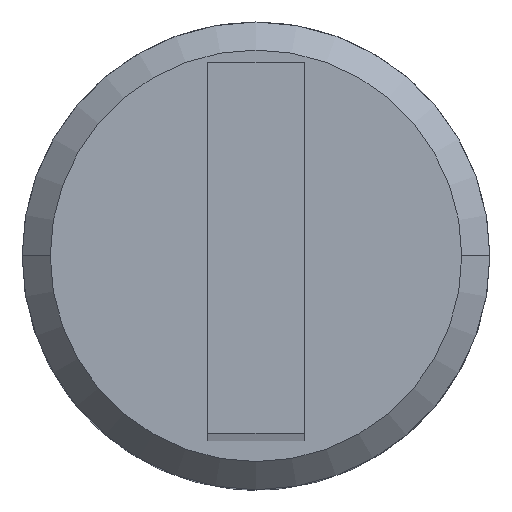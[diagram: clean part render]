
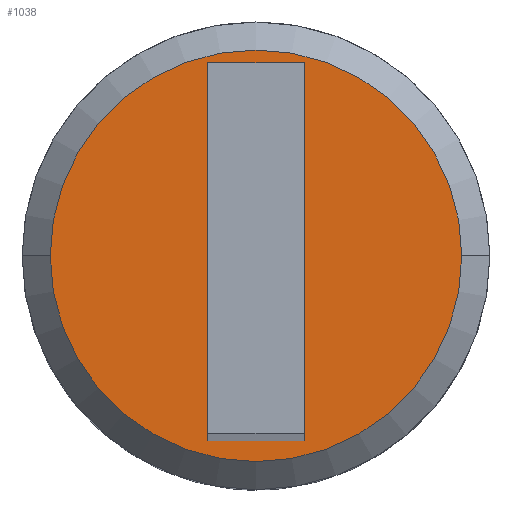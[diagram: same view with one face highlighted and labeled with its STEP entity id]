
A CAD part, top view. The second image highlights one B-rep face of the part: STEP entity #1038.
In plain terms, the highlighted planar face has unit normal (0, 0, 1).
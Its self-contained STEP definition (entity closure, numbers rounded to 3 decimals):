
#8 = AXIS2_PLACEMENT_3D ( 'NONE', #1001, #998, #993 ) ;
#255 = EDGE_LOOP ( 'NONE', ( #359, #360 ) ) ;
#359 = ORIENTED_EDGE ( 'NONE', *, *, #1193, .T. ) ;
#360 = ORIENTED_EDGE ( 'NONE', *, *, #1260, .T. ) ;
#543 = AXIS2_PLACEMENT_3D ( 'NONE', #760, #749, #726 ) ;
#595 = CIRCLE ( 'NONE', #8, 4.28 ) ;
#677 = DIRECTION ( 'NONE',  ( 1., 0., 0. ) ) ;
#678 = CARTESIAN_POINT ( 'NONE',  ( -4.28, 0., 6. ) ) ;
#680 = DIRECTION ( 'NONE',  ( 0., 0., 1. ) ) ;
#684 = CARTESIAN_POINT ( 'NONE',  ( 0., 0., 6. ) ) ;
#726 = DIRECTION ( 'NONE',  ( -1., 0., 0. ) ) ;
#749 = DIRECTION ( 'NONE',  ( 0., 0., -1. ) ) ;
#760 = CARTESIAN_POINT ( 'NONE',  ( 4.28, 0., 6. ) ) ;
#854 = PLANE ( 'NONE',  #543 ) ;
#944 = VERTEX_POINT ( 'NONE', #1294 ) ;
#966 = AXIS2_PLACEMENT_3D ( 'NONE', #684, #680, #677 ) ;
#993 = DIRECTION ( 'NONE',  ( 1., 0., 0. ) ) ;
#998 = DIRECTION ( 'NONE',  ( 0., 0., 1. ) ) ;
#1001 = CARTESIAN_POINT ( 'NONE',  ( 0., 0., 6. ) ) ;
#1038 = ADVANCED_FACE ( 'NONE', ( #1702 ), #854, .F. ) ;
#1046 = VERTEX_POINT ( 'NONE', #678 ) ;
#1134 = CIRCLE ( 'NONE', #966, 4.28 ) ;
#1193 = EDGE_CURVE ( 'NONE', #944, #1046, #595, .T. ) ;
#1260 = EDGE_CURVE ( 'NONE', #1046, #944, #1134, .T. ) ;
#1294 = CARTESIAN_POINT ( 'NONE',  ( 4.28, 0., 6. ) ) ;
#1702 = FACE_OUTER_BOUND ( 'NONE', #255, .T. ) ;
